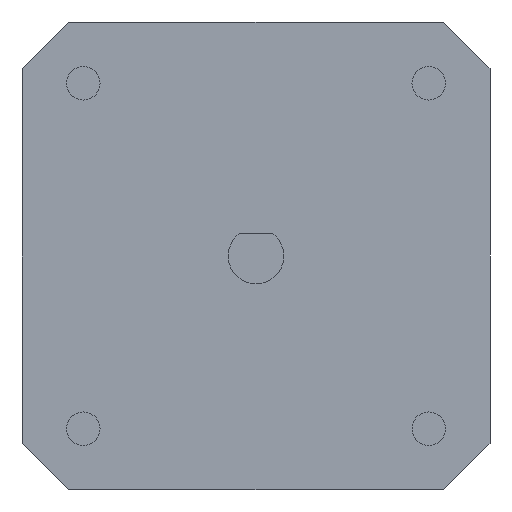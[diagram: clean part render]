
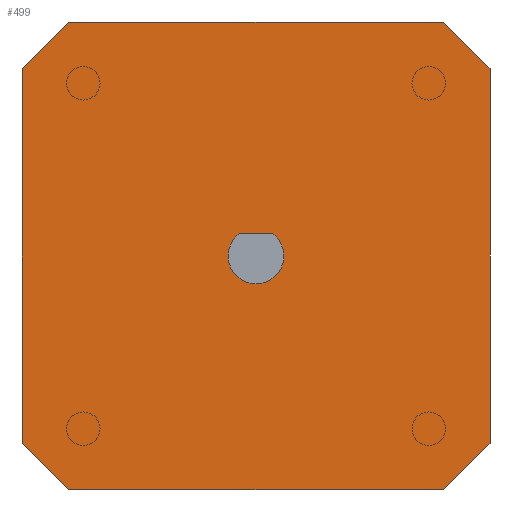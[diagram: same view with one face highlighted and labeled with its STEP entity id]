
A CAD part, front view. The second image highlights one B-rep face of the part: STEP entity #499.
In plain terms, the highlighted planar face has unit normal (0, -1, 0).
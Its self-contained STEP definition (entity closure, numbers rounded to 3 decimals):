
#24 = CARTESIAN_POINT ( 'NONE',  ( 37.8, -37., 0. ) ) ;
#49 = DIRECTION ( 'NONE',  ( -0.707, 0., 0.707 ) ) ;
#75 = LINE ( 'NONE', #1441, #707 ) ;
#84 = DIRECTION ( 'NONE',  ( 0., -1., 0. ) ) ;
#129 = EDGE_CURVE ( 'NONE', #633, #865, #477, .T. ) ;
#140 = DIRECTION ( 'NONE',  ( 0., 0., -1. ) ) ;
#168 = FACE_OUTER_BOUND ( 'NONE', #680, .T. ) ;
#171 = CARTESIAN_POINT ( 'NONE',  ( 37.8, -37., -42. ) ) ;
#199 = LINE ( 'NONE', #566, #1242 ) ;
#200 = LINE ( 'NONE', #216, #519 ) ;
#209 = DIRECTION ( 'NONE',  ( 1., 0., 0. ) ) ;
#216 = CARTESIAN_POINT ( 'NONE',  ( 0., -37., -42. ) ) ;
#218 = CARTESIAN_POINT ( 'NONE',  ( 42., -37., -37.8 ) ) ;
#222 = LINE ( 'NONE', #1140, #1085 ) ;
#261 = DIRECTION ( 'NONE',  ( 0., -1., 0. ) ) ;
#340 = CARTESIAN_POINT ( 'NONE',  ( 19.5, -37., -19. ) ) ;
#351 = VERTEX_POINT ( 'NONE', #827 ) ;
#354 = LINE ( 'NONE', #803, #563 ) ;
#363 = VERTEX_POINT ( 'NONE', #1166 ) ;
#392 = VERTEX_POINT ( 'NONE', #1486 ) ;
#410 = EDGE_CURVE ( 'NONE', #633, #865, #354, .T. ) ;
#417 = EDGE_CURVE ( 'NONE', #1291, #586, #589, .T. ) ;
#421 = DIRECTION ( 'NONE',  ( -0.707, 0., -0.707 ) ) ;
#424 = ORIENTED_EDGE ( 'NONE', *, *, #1198, .F. ) ;
#425 = ORIENTED_EDGE ( 'NONE', *, *, #1165, .T. ) ;
#433 = DIRECTION ( 'NONE',  ( 0., 0., 1. ) ) ;
#465 = DIRECTION ( 'NONE',  ( 0., 0., -1. ) ) ;
#477 = CIRCLE ( 'NONE', #1123, 2.5 ) ;
#499 = ADVANCED_FACE ( 'NONE', ( #168, #629 ), #1409, .T. ) ;
#502 = LINE ( 'NONE', #24, #784 ) ;
#514 = CARTESIAN_POINT ( 'NONE',  ( 0., -37., 0. ) ) ;
#519 = VECTOR ( 'NONE', #799, 1000. ) ;
#563 = VECTOR ( 'NONE', #912, 1000. ) ;
#566 = CARTESIAN_POINT ( 'NONE',  ( 0., -37., 0. ) ) ;
#586 = VERTEX_POINT ( 'NONE', #218 ) ;
#589 = LINE ( 'NONE', #1482, #1169 ) ;
#629 = FACE_BOUND ( 'NONE', #1414, .T. ) ;
#633 = VERTEX_POINT ( 'NONE', #340 ) ;
#680 = EDGE_LOOP ( 'NONE', ( #1282, #1453, #1337, #424, #425, #1398, #1305, #1397 ) ) ;
#707 = VECTOR ( 'NONE', #421, 1000. ) ;
#737 = ORIENTED_EDGE ( 'NONE', *, *, #410, .T. ) ;
#748 = EDGE_CURVE ( 'NONE', #1291, #351, #502, .T. ) ;
#751 = CARTESIAN_POINT ( 'NONE',  ( 0., -37., -37.8 ) ) ;
#784 = VECTOR ( 'NONE', #49, 1000. ) ;
#795 = CARTESIAN_POINT ( 'NONE',  ( 0., -37., -4.2 ) ) ;
#799 = DIRECTION ( 'NONE',  ( -1., 0., 0. ) ) ;
#803 = CARTESIAN_POINT ( 'NONE',  ( 22.5, -37., -19. ) ) ;
#810 = VERTEX_POINT ( 'NONE', #751 ) ;
#827 = CARTESIAN_POINT ( 'NONE',  ( 37.8, -37., 0. ) ) ;
#828 = VECTOR ( 'NONE', #876, 1000. ) ;
#842 = EDGE_CURVE ( 'NONE', #810, #1295, #199, .T. ) ;
#865 = VERTEX_POINT ( 'NONE', #1105 ) ;
#876 = DIRECTION ( 'NONE',  ( 0.707, 0., -0.707 ) ) ;
#906 = EDGE_CURVE ( 'NONE', #363, #1306, #200, .T. ) ;
#912 = DIRECTION ( 'NONE',  ( 1., 0., 0. ) ) ;
#926 = CARTESIAN_POINT ( 'NONE',  ( 4.2, -37., -42. ) ) ;
#951 = AXIS2_PLACEMENT_3D ( 'NONE', #514, #261, #140 ) ;
#1023 = VECTOR ( 'NONE', #1209, 1000. ) ;
#1034 = ORIENTED_EDGE ( 'NONE', *, *, #129, .F. ) ;
#1047 = CARTESIAN_POINT ( 'NONE',  ( 42., -37., -4.2 ) ) ;
#1081 = EDGE_CURVE ( 'NONE', #810, #1306, #1101, .T. ) ;
#1085 = VECTOR ( 'NONE', #209, 1000. ) ;
#1101 = LINE ( 'NONE', #1334, #828 ) ;
#1105 = CARTESIAN_POINT ( 'NONE',  ( 22.5, -37., -19. ) ) ;
#1109 = DIRECTION ( 'NONE',  ( 0., 0., -1. ) ) ;
#1123 = AXIS2_PLACEMENT_3D ( 'NONE', #1464, #84, #1109 ) ;
#1124 = LINE ( 'NONE', #171, #1023 ) ;
#1140 = CARTESIAN_POINT ( 'NONE',  ( 0., -37., 0. ) ) ;
#1165 = EDGE_CURVE ( 'NONE', #392, #1295, #75, .T. ) ;
#1166 = CARTESIAN_POINT ( 'NONE',  ( 37.8, -37., -42. ) ) ;
#1169 = VECTOR ( 'NONE', #465, 1000. ) ;
#1198 = EDGE_CURVE ( 'NONE', #392, #351, #222, .T. ) ;
#1209 = DIRECTION ( 'NONE',  ( 0.707, 0., 0.707 ) ) ;
#1242 = VECTOR ( 'NONE', #433, 1000. ) ;
#1271 = EDGE_CURVE ( 'NONE', #363, #586, #1124, .T. ) ;
#1282 = ORIENTED_EDGE ( 'NONE', *, *, #1271, .T. ) ;
#1291 = VERTEX_POINT ( 'NONE', #1047 ) ;
#1295 = VERTEX_POINT ( 'NONE', #795 ) ;
#1305 = ORIENTED_EDGE ( 'NONE', *, *, #1081, .T. ) ;
#1306 = VERTEX_POINT ( 'NONE', #926 ) ;
#1334 = CARTESIAN_POINT ( 'NONE',  ( 4.2, -37., -42. ) ) ;
#1337 = ORIENTED_EDGE ( 'NONE', *, *, #748, .T. ) ;
#1397 = ORIENTED_EDGE ( 'NONE', *, *, #906, .F. ) ;
#1398 = ORIENTED_EDGE ( 'NONE', *, *, #842, .F. ) ;
#1409 = PLANE ( 'NONE',  #951 ) ;
#1414 = EDGE_LOOP ( 'NONE', ( #1034, #737 ) ) ;
#1441 = CARTESIAN_POINT ( 'NONE',  ( 0., -37., -4.2 ) ) ;
#1453 = ORIENTED_EDGE ( 'NONE', *, *, #417, .F. ) ;
#1464 = CARTESIAN_POINT ( 'NONE',  ( 21., -37., -21. ) ) ;
#1482 = CARTESIAN_POINT ( 'NONE',  ( 42., -37., 0. ) ) ;
#1486 = CARTESIAN_POINT ( 'NONE',  ( 4.2, -37., 0. ) ) ;
